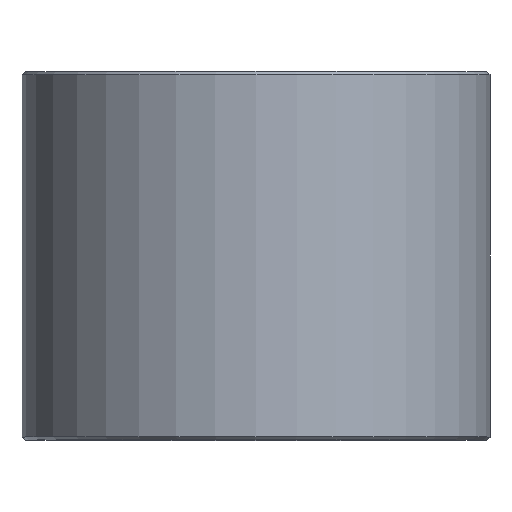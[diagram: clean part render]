
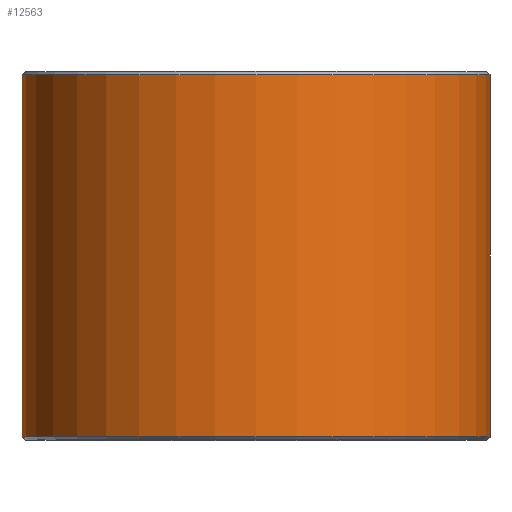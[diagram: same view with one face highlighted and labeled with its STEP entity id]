
A CAD part, top view. The second image highlights one B-rep face of the part: STEP entity #12563.
In plain terms, the highlighted cylindrical face has radius 15.25 mm (diameter 30.5 mm), a partial arc.
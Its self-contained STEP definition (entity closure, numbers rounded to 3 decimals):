
#5730=CARTESIAN_POINT('',(0.,0.2,0.));
#5731=DIRECTION('',(0.,-1.,0.));
#5732=DIRECTION('',(1.,0.,0.));
#5733=AXIS2_PLACEMENT_3D('',#5730,#5731,#5732);
#5735=DIRECTION('',(0.,1.,0.));
#5736=VECTOR('',#5735,23.6);
#5737=CARTESIAN_POINT('',(-15.25,0.2,
0.));
#5738=LINE('',#5737,#5736);
#5739=CARTESIAN_POINT('',(0.,23.8,0.));
#5740=DIRECTION('',(0.,1.,0.));
#5741=DIRECTION('',(-1.,0.,0.));
#5742=AXIS2_PLACEMENT_3D('',#5739,#5740,#5741);
#5757=DIRECTION('',(0.,1.,0.));
#5758=VECTOR('',#5757,23.6);
#5759=CARTESIAN_POINT('',(15.25,0.2,
0.));
#5760=LINE('',#5759,#5758);
#5937=CARTESIAN_POINT('',(-15.25,0.2,0.));
#5938=CARTESIAN_POINT('',(15.25,0.2,0.));
#5939=VERTEX_POINT('',#5937);
#5940=VERTEX_POINT('',#5938);
#5945=CARTESIAN_POINT('',(15.25,23.8,0.));
#5946=CARTESIAN_POINT('',(-15.25,23.8,0.));
#5947=VERTEX_POINT('',#5945);
#5948=VERTEX_POINT('',#5946);
#12549=CARTESIAN_POINT('',(0.,0.,0.));
#12550=DIRECTION('',(0.,1.,0.));
#12551=DIRECTION('',(1.,0.,0.));
#12552=AXIS2_PLACEMENT_3D('',#12549,#12550,#12551);
#12553=CYLINDRICAL_SURFACE('',#12552,15.25);
#12555=ORIENTED_EDGE('',*,*,#12554,.T.);
#12557=ORIENTED_EDGE('',*,*,#12556,.T.);
#12558=ORIENTED_EDGE('',*,*,#12543,.T.);
#12560=ORIENTED_EDGE('',*,*,#12559,.F.);
#12561=EDGE_LOOP('',(#12555,#12557,#12558,#12560));
#12562=FACE_OUTER_BOUND('',#12561,.F.);
#12563=ADVANCED_FACE('',(#12562),#12553,.T.);
#5734=CIRCLE('',#5733,15.25);
#5743=CIRCLE('',#5742,15.25);
#12543=EDGE_CURVE('',#5948,#5947,#5743,.T.);
#12554=EDGE_CURVE('',#5940,#5939,#5734,.T.);
#12556=EDGE_CURVE('',#5939,#5948,#5738,.T.);
#12559=EDGE_CURVE('',#5940,#5947,#5760,.T.);
